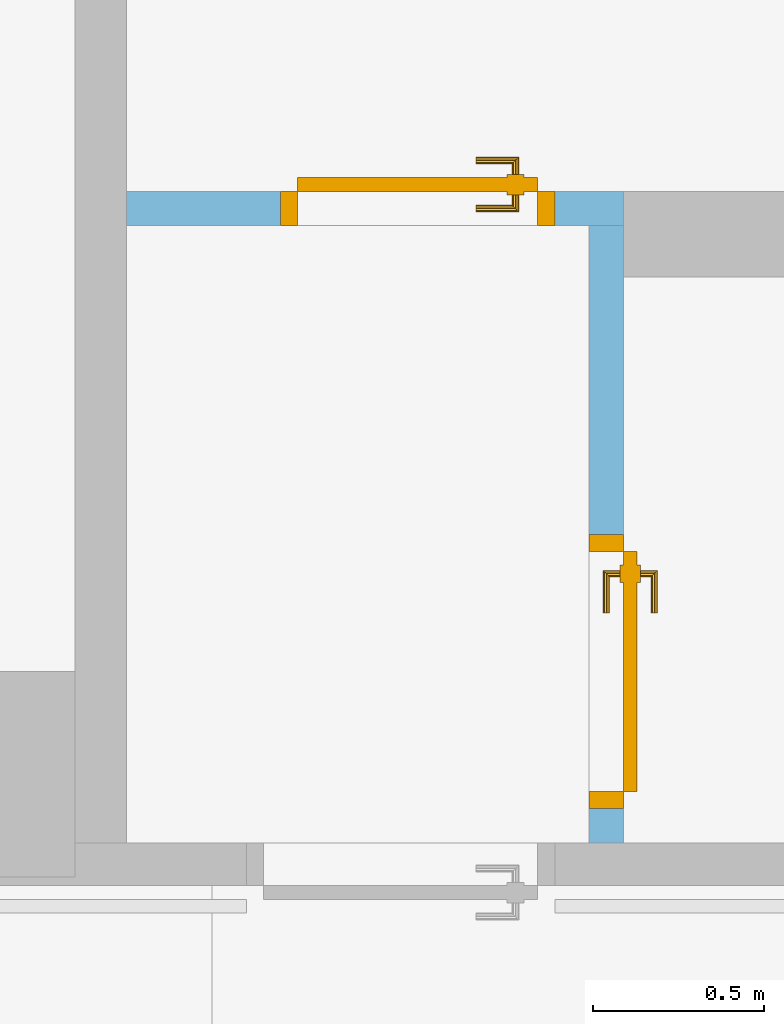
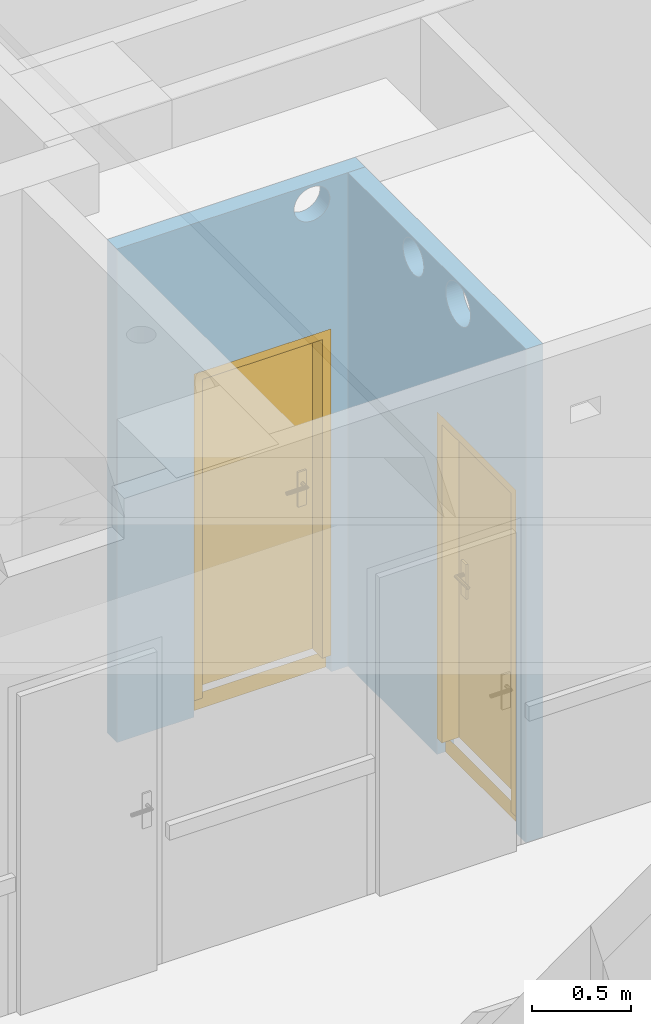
# One storey, part 65 of 84: 2 doors, 5 openings, plus 2 elements that do not belong to this part.
"""IFC4 building model written with IfcOpenShell, lengths in metres."""

import ifcopenshell
import ifcopenshell.guid

model = None  # the IFC model being written
_history = None  # IfcOwnerHistory: only IFC2X3 demands one
_inside = {}  # id of a spatial element -> (the spatial element, [elements in it])
_under = {}  # id of a project, library or spatial element -> (it, [spatial elements below it])
_declared = {}  # id of a project -> (the project, [libraries it declares])
_typed = {}  # id of a type object -> (the type object, [elements of that type])
_made_of = {}  # id of a material, layer set ... -> (it, [elements and type objects made of it])


def new_model(schema):
    """Start an empty IFC model of exactly this schema.

    Asked for "IFC4X3", IfcOpenShell would pick the latest addendum, in which some entities
    have other attributes; the version numbers below select the first issue.
    IFC2X3 requires an IfcOwnerHistory on every rooted entity: one is made here for all.
    """
    global model, _history
    if schema == "IFC4X3":
        model = ifcopenshell.file(schema_version=(4, 3, 0, 0))
    else:
        model = ifcopenshell.file(schema=schema)
    _inside.clear()
    _under.clear()
    _declared.clear()
    _typed.clear()
    _made_of.clear()
    _history = None
    if model.schema == "IFC2X3":
        org = make("IfcOrganization", Name="unknown")
        user = make(
            "IfcPersonAndOrganization",
            ThePerson=make("IfcPerson", FamilyName="unknown"),
            TheOrganization=org,
        )
        app = make(
            "IfcApplication",
            ApplicationDeveloper=org,
            Version="unknown",
            ApplicationFullName="unknown",
            ApplicationIdentifier="unknown",
        )
        _history = make(
            "IfcOwnerHistory",
            OwningUser=user,
            OwningApplication=app,
            ChangeAction="ADDED",
            CreationDate=0,
        )
    return model


def make(cls, **values):
    """One entity of the class cls with the attributes given. An attribute that is None is left unset."""
    return model.create_entity(
        cls, **{name: value for name, value in values.items() if value is not None}
    )


def entity(cls, *values):
    """Any entity or typed value of the class cls, its attributes in the order of the schema. None: left unset."""
    e = model.create_entity(cls)
    for i, value in enumerate(values):
        if value is not None:
            e[i] = value
    return e


def rooted(cls, **values):
    """An entity with a GlobalId (a new one), such as an element, a storey or a relation."""
    return make(cls, GlobalId=ifcopenshell.guid.new(), OwnerHistory=_history, **values)


def si_unit(unit_type, name, prefix=None):
    """IfcSIUnit, for example si_unit("LENGTHUNIT", "METRE", prefix="MILLI")."""
    return make("IfcSIUnit", UnitType=unit_type, Prefix=prefix, Name=name)


def converted_unit(unit_type, name, factor, base, dimensions=None, offset=None):
    """IfcConversionBasedUnit, such as the inch: factor (a typed value) times the base unit."""
    return make(
        "IfcConversionBasedUnit"
        if offset is None
        else "IfcConversionBasedUnitWithOffset",
        ConversionOffset=offset,
        Dimensions=None
        if dimensions is None
        else entity("IfcDimensionalExponents", *dimensions),
        UnitType=unit_type,
        Name=name,
        ConversionFactor=make(
            "IfcMeasureWithUnit", ValueComponent=factor, UnitComponent=base
        ),
    )


def derived_unit(unit_type, elements):
    """IfcDerivedUnit: a product of units, each with its exponent."""
    return make(
        "IfcDerivedUnit",
        Elements=[
            make("IfcDerivedUnitElement", Unit=unit, Exponent=power)
            for unit, power in elements
        ],
        UnitType=unit_type,
    )


def assignment(units):
    """IfcUnitAssignment: the units of a project."""
    return None if units is None else make("IfcUnitAssignment", Units=units)


def point(xyz):
    """IfcCartesianPoint."""
    return None if xyz is None else make("IfcCartesianPoint", Coordinates=xyz)


def direction(xyz):
    """IfcDirection."""
    return None if xyz is None else make("IfcDirection", DirectionRatios=xyz)


def frame(location, z_axis=None, x_axis=None):
    """IfcAxis2Placement3D, a coordinate frame: its origin and axes. An axis left out is left unset."""
    return make(
        "IfcAxis2Placement3D",
        Location=point(location),
        Axis=direction(z_axis),
        RefDirection=direction(x_axis),
    )


def frame_2d(location, x_axis=None):
    """IfcAxis2Placement2D, a coordinate frame in the plane: its origin and x axis."""
    return make(
        "IfcAxis2Placement2D", Location=point(location), RefDirection=direction(x_axis)
    )


def origin():
    """The frame at (0, 0, 0) with its axes left unset."""
    return frame((0.0, 0.0, 0.0))


def origin_with_axes():
    """The frame at (0, 0, 0) with the z axis (0, 0, 1) and the x axis (1, 0, 0) written out."""
    return frame((0.0, 0.0, 0.0), z_axis=(0.0, 0.0, 1.0), x_axis=(1.0, 0.0, 0.0))


def place(relative_to, where):
    """IfcLocalPlacement: puts the frame where relative to a parent placement (None: the world)."""
    return make(
        "IfcLocalPlacement", PlacementRelTo=relative_to, RelativePlacement=where
    )


def context(
    kind, dimensions, precision=None, world=None, true_north=None, identifier=None
):
    """IfcGeometricRepresentationContext, for example the 3D "Model" context."""
    return make(
        "IfcGeometricRepresentationContext",
        ContextIdentifier=identifier,
        ContextType=kind,
        CoordinateSpaceDimension=dimensions,
        Precision=precision,
        WorldCoordinateSystem=world,
        TrueNorth=true_north,
    )


def subcontext(parent, identifier, kind, view, scale=None):
    """IfcGeometricRepresentationSubContext, for example "Body" below "Model"."""
    return make(
        "IfcGeometricRepresentationSubContext",
        ContextIdentifier=identifier,
        ContextType=kind,
        ParentContext=parent,
        TargetScale=scale,
        TargetView=view,
    )


def project(units=None, contexts=None):
    """IfcProject with its units and contexts."""
    return rooted(
        "IfcProject",
        Name="project",
        RepresentationContexts=contexts,
        UnitsInContext=assignment(units),
    )


def spatial(cls, under=None, at=None, **own):
    """A site, building, storey or space (cls), placed at a placement, below another one or the project."""
    s = rooted(cls, ObjectPlacement=at, **own)
    if under is not None:
        _under.setdefault(under.id(), (under, []))[1].append(s)
    return s


def polyline(points):
    """IfcPolyline through the points."""
    return make("IfcPolyline", Points=[point(p) for p in points])


def profile(cls, at=None, kind="AREA", **sizes):
    """A parametric profile (cls). Its sizes go by their IFC names, for example OverallWidth=200.0."""
    return make(cls, ProfileType=kind, Position=at, **sizes)


def rectangle(**sizes):
    """IfcRectangleProfileDef."""
    return profile("IfcRectangleProfileDef", **sizes)


def outline(outer, holes=None, kind="AREA"):
    """IfcArbitraryClosedProfileDef: a profile drawn as a closed curve; with holes, ...WithVoids."""
    if holes is None:
        return make("IfcArbitraryClosedProfileDef", ProfileType=kind, OuterCurve=outer)
    return make(
        "IfcArbitraryProfileDefWithVoids",
        ProfileType=kind,
        OuterCurve=outer,
        InnerCurves=holes,
    )


def extrude(swept, where, along, depth):
    """IfcExtrudedAreaSolid: the profile swept, set in the frame where, extruded along a direction by depth."""
    return make(
        "IfcExtrudedAreaSolid",
        SweptArea=swept,
        Position=where,
        ExtrudedDirection=direction(along),
        Depth=depth,
    )


def faces_of(points, faces, orient=None, outer=None):
    """IfcFace entities. A face is a list of loops; a loop is a list of indices into points, from 0.

    orient and outer hold one flag for each loop. By default every Orientation is true, the
    first loop of a face is its IfcFaceOuterBound and the others are IfcFaceBound.
    """
    made = []
    for i, loops in enumerate(faces):
        bounds = []
        for j, loop in enumerate(loops):
            is_outer = j == 0 if outer is None else outer[i][j]
            bounds.append(
                make(
                    "IfcFaceOuterBound" if is_outer else "IfcFaceBound",
                    Bound=make("IfcPolyLoop", Polygon=[points[k] for k in loop]),
                    Orientation=True if orient is None else orient[i][j],
                )
            )
        made.append(make("IfcFace", Bounds=bounds))
    return made


def closed_shell(faces, orient=None, outer=None):
    """The faces of one IfcClosedShell. faceted_brep and surface_model build it on their shared points."""
    return ("IfcClosedShell", faces, orient, outer)


def open_shell(faces, orient=None, outer=None):
    """The faces of one IfcOpenShell. surface_model builds it on its shared points."""
    return ("IfcOpenShell", faces, orient, outer)


def surface_model(cls, points, shells):
    """IfcFaceBasedSurfaceModel or IfcShellBasedSurfaceModel (cls): surfaces that need not close."""
    shared = [point(p) for p in points]
    made = [make(c, CfsFaces=faces_of(shared, fs, o, b)) for c, fs, o, b in shells]
    if cls == "IfcFaceBasedSurfaceModel":
        return make(cls, FbsmFaces=made)
    return make(cls, SbsmBoundary=made)


def shape(context_of_items, identifier, shape_type, items):
    """IfcShapeRepresentation: the items that make up one representation, for example the "Body"."""
    return make(
        "IfcShapeRepresentation",
        ContextOfItems=context_of_items,
        RepresentationIdentifier=identifier,
        RepresentationType=shape_type,
        Items=items,
    )


def source(mapping_origin, context_of_items, identifier, shape_type, items):
    """IfcRepresentationMap: a shape defined once, which mapped items show again and again."""
    return make(
        "IfcRepresentationMap",
        MappingOrigin=mapping_origin,
        MappedRepresentation=shape(context_of_items, identifier, shape_type, items),
    )


def transform(
    local_origin,
    x_axis=None,
    y_axis=None,
    z_axis=None,
    scale=None,
    scale2=None,
    scale3=None,
    uniform=True,
):
    """IfcCartesianTransformationOperator3D, or its non-uniform kind. x_axis, y_axis, z_axis: its Axis1, 2, 3."""
    if uniform:
        return make(
            "IfcCartesianTransformationOperator3D",
            Axis1=direction(x_axis),
            Axis2=direction(y_axis),
            LocalOrigin=point(local_origin),
            Scale=scale,
            Axis3=direction(z_axis),
        )
    return make(
        "IfcCartesianTransformationOperator3DnonUniform",
        Axis1=direction(x_axis),
        Axis2=direction(y_axis),
        LocalOrigin=point(local_origin),
        Scale=scale,
        Axis3=direction(z_axis),
        Scale2=scale2,
        Scale3=scale3,
    )


def mapped(mapping_source, mapping_target):
    """IfcMappedItem: shows the shape of a source again, moved by a transform."""
    return make(
        "IfcMappedItem", MappingSource=mapping_source, MappingTarget=mapping_target
    )


def material(Name=None, Category=None):
    """IfcMaterial."""
    return make("IfcMaterial", Name=Name, Category=Category)


def layer(
    of_material, thickness, ventilated=None, Name=None, Category=None, Priority=None
):
    """IfcMaterialLayer: one layer of a wall or slab, of a material (None: an air gap)."""
    return make(
        "IfcMaterialLayer",
        Material=of_material,
        LayerThickness=thickness,
        IsVentilated=ventilated,
        Name=Name,
        Category=Category,
        Priority=Priority,
    )


def layer_set(layers, Name=None):
    """IfcMaterialLayerSet."""
    return make("IfcMaterialLayerSet", MaterialLayers=layers, LayerSetName=Name)


def layer_usage(for_layer_set, set_direction, sense, offset, extent=None):
    """IfcMaterialLayerSetUsage: how a layer set lies in its element."""
    return make(
        "IfcMaterialLayerSetUsage",
        ForLayerSet=for_layer_set,
        LayerSetDirection=set_direction,
        DirectionSense=sense,
        OffsetFromReferenceLine=offset,
        ReferenceExtent=extent,
    )


def made_of(thing, what):
    """Note that an element or type object is made of a material, layer set ...; save() writes the relation."""
    if what is not None:
        _made_of.setdefault(what.id(), (what, []))[1].append(thing)
    return thing


def type_object(cls, material=None, **own):
    """A type object (cls), such as IfcWallType, which elements share."""
    return made_of(rooted(cls, **own), material)


def element(
    cls,
    number,
    at=None,
    inside=None,
    cuts=None,
    type_object=None,
    material=None,
    context=None,
    identifier="Body",
    shape_type=None,
    held_by="IfcProductDefinitionShape",
    body=None,
    shapes=None,
    **own,
):
    """One element of the class cls, such as IfcWall. Its Tag is "e" and its number.

    at: its placement. inside: the storey or other place that contains it. cuts: it is an
    opening in that element (IfcRelVoidsElement). A single representation is given by context,
    identifier, shape_type and body (its items); several are given by shapes. held_by: the class
    of the entity that holds the representations. save() writes the other relations.
    """
    e = rooted(cls, Tag="e%d" % number, ObjectPlacement=at, **own)
    if body is not None:
        shapes = [shape(context, identifier, shape_type, body)]
    if shapes is not None:
        e.Representation = make(held_by, Representations=shapes)
    if inside is not None:
        _inside.setdefault(inside.id(), (inside, []))[1].append(e)
    if cuts is not None:
        rooted(
            "IfcRelVoidsElement", RelatingBuildingElement=cuts, RelatedOpeningElement=e
        )
    if type_object is not None:
        _typed.setdefault(type_object.id(), (type_object, []))[1].append(e)
    return made_of(e, material)


def fill(opening, filler):
    """IfcRelFillsElement: the door or window that sits in an opening."""
    return rooted(
        "IfcRelFillsElement",
        RelatingOpeningElement=opening,
        RelatedBuildingElement=filler,
    )


def aggregate(whole, parts):
    """IfcRelAggregates: a whole, such as a stair, and the parts it consists of."""
    return rooted("IfcRelAggregates", RelatingObject=whole, RelatedObjects=parts)


def save(model, path):
    """Write the relations noted so far, then the file.

    IfcRelAggregates (storeys below a building ...), IfcRelContainedInSpatialStructure (elements
    in a storey), IfcRelDefinesByType, IfcRelAssociatesMaterial and IfcRelDeclares: one each for
    every whole, place, type object, material and project.
    """
    for whole, parts in _under.values():
        aggregate(whole, parts)
    for where, things in _inside.values():
        rooted(
            "IfcRelContainedInSpatialStructure",
            RelatedElements=things,
            RelatingStructure=where,
        )
    for kind, things in _typed.values():
        rooted("IfcRelDefinesByType", RelatedObjects=things, RelatingType=kind)
    for what, things in _made_of.values():
        rooted("IfcRelAssociatesMaterial", RelatedObjects=things, RelatingMaterial=what)
    for by, libraries in _declared.values():
        rooted("IfcRelDeclares", RelatingContext=by, RelatedDefinitions=libraries)
    model.write(path)


model = new_model("IFC4")

# Units and contexts
model_context = context("Model", 3, precision=1e-05, world=origin())
body_context = subcontext(model_context, "Body", "Model", "MODEL_VIEW")
ifc_project = project(units=[si_unit("LENGTHUNIT", "METRE"), si_unit("AREAUNIT", "SQUARE_METRE"), si_unit("VOLUMEUNIT", "CUBIC_METRE"), si_unit("MASSUNIT", "GRAM", prefix="KILO"), converted_unit("PLANEANGLEUNIT", "DEGREE", entity("IfcPlaneAngleMeasure", 0.0174532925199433), si_unit("PLANEANGLEUNIT", "RADIAN"), dimensions=[0, 0, 0, 0, 0, 0, 0]), derived_unit("THERMALTRANSMITTANCEUNIT", [(si_unit("POWERUNIT", "WATT"), 1), (si_unit("THERMODYNAMICTEMPERATUREUNIT", "KELVIN"), -1), (si_unit("LENGTHUNIT", "METRE"), -2)]), derived_unit("VOLUMETRICFLOWRATEUNIT", [(si_unit("LENGTHUNIT", "METRE"), 3), (converted_unit("TIMEUNIT", "hour", entity("IfcTimeMeasure", 3600.0), si_unit("TIMEUNIT", "SECOND"), dimensions=[0, 0, 1, 0, 0, 0, 0]), -1), (si_unit("LENGTHUNIT", "METRE"), -1)])], contexts=[model_context])

# Site, building, storey
site_placement = place(None, origin())
site = spatial("IfcSite", under=ifc_project, at=site_placement, Name="3. ASŘ", CompositionType="ELEMENT")
building_placement = place(site_placement, origin())
building = spatial("IfcBuilding", under=site, at=building_placement, Name="Pavilon C", CompositionType="ELEMENT")
storey_placement = place(building_placement, frame((0.0, 0.0, -3.3)))
storey = spatial("IfcBuildingStorey", under=building, at=storey_placement, Name="Půdorys 1.PP", CompositionType="ELEMENT", Elevation=-3.3)

# Wall, openings, door
ifc_material_1 = material(Name="SDK - 1 KCE + DVOJITÉ OPLÁŠTĚNÍ")
ifc_layer_1 = layer(ifc_material_1, 0.1)
ifc_layer_set_1 = layer_set([ifc_layer_1])
ifc_layer_usage_1 = layer_usage(ifc_layer_set_1, "AXIS2", "POSITIVE", 0.0)
wall_1_placement = place(storey_placement, frame((25.9, 11.9, -0.1), z_axis=(0.0, 0.0, 1.0), x_axis=(-1.0, 0.0, 0.0)))
wall_1 = element("IfcWall", 1, at=wall_1_placement, inside=storey, material=ifc_layer_usage_1, Name="SDK - 1 KCE + DVOJITÉ OPLÁŠTĚNÍ", context=body_context, shape_type="SweptSolid", body=[
    extrude(rectangle(XDim=1.45, YDim=0.1, at=frame_2d((0.725, 0.05), x_axis=(1.0, 0.0))), origin_with_axes(), (0.0, 0.0, 1.0), 3.05),
])
opening_1_placement = place(wall_1_placement, frame((1.0, 0.1, 0.0), z_axis=(0.0, -1.0, 0.0), x_axis=(0.0, 0.0, 1.0)))
opening_1 = element("IfcOpeningElement", 2, at=opening_1_placement, cuts=wall_1, Name="Dveřní otvor", ObjectType="Opening", context=body_context, shape_type="SweptSolid", body=[
    extrude(outline(polyline([(0.0, 0.8), (2.12, 0.8), (2.12, 0.0), (0.0, 0.0), (0.0, 0.8)])), origin_with_axes(), (0.0, 0.0, 1.0), 0.1),
])
opening_2_placement = place(wall_1_placement, frame((0.205867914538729, 0.0, 2.825), z_axis=(0.0, 1.0, 0.0), x_axis=(0.0, 0.0, 1.0)))
element("IfcOpeningElement", 3, at=opening_2_placement, cuts=wall_1, Name="VZT", ObjectType="Opening", context=body_context, shape_type="SweptSolid", body=[
    extrude(outline(polyline([(0.105, 0.21), (0.115975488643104, 0.209424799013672), (0.126830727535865, 0.207705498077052), (0.137446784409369, 0.204860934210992), (0.147707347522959, 0.200922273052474), (0.1575, 0.195932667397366), (0.16671745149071, 0.189946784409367), (0.17525871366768, 0.183030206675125), (0.183030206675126, 0.175258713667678), (0.189946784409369, 0.166717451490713), (0.195932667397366, 0.1575), (0.200922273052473, 0.147707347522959), (0.204860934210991, 0.137446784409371), (0.20770549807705, 0.126830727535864), (0.209424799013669, 0.115975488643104), (0.21, 0.105), (0.209424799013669, 0.0940245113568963), (0.20770549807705, 0.0831692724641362), (0.204860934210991, 0.0725532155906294), (0.200922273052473, 0.062292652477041), (0.195932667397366, 0.0524999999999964), (0.18994678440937, 0.0432825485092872), (0.183030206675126, 0.0347412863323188), (0.17525871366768, 0.0269697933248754), (0.16671745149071, 0.0200532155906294), (0.1575, 0.0140673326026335), (0.147707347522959, 0.00907772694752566), (0.13744678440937, 0.00513906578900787), (0.126830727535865, 0.0022945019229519), (0.115975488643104, 0.000575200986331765), (0.105, 0.0), (0.0940245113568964, 0.000575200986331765), (0.0831692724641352, 0.0022945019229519), (0.0725532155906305, 0.00513906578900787), (0.062292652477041, 0.00907772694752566), (0.0525, 0.0140673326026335), (0.0432825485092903, 0.0200532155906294), (0.0347412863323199, 0.0269697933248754), (0.0269697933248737, 0.0347412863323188), (0.0200532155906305, 0.0432825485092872), (0.014067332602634, 0.0524999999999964), (0.00907772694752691, 0.062292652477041), (0.0051390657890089, 0.0725532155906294), (0.00229450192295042, 0.0831692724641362), (0.000575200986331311, 0.0940245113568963), (0.0, 0.105), (0.000575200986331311, 0.115975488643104), (0.00229450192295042, 0.126830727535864), (0.0051390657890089, 0.137446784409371), (0.00907772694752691, 0.147707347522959), (0.014067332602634, 0.1575), (0.0200532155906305, 0.166717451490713), (0.0269697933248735, 0.175258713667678), (0.0347412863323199, 0.183030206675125), (0.0432825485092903, 0.189946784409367), (0.0525, 0.195932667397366), (0.062292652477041, 0.200922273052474), (0.0725532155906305, 0.204860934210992), (0.0831692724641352, 0.207705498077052), (0.0940245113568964, 0.209424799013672), (0.105, 0.21)])), origin_with_axes(), (0.0, 0.0, 1.0), 0.1),
])
door_type_1 = type_object("IfcDoorType", Name="I.D014", OperationType="NOTDEFINED", ParameterTakesPrecedence=False, PredefinedType="DOOR")
shared_shape_1 = source(origin_with_axes(), body_context, "Body", "SurfaceModel", [
    surface_model("IfcShellBasedSurfaceModel", [(0.0, 0.05, 0.0), (0.8, 0.05, 0.0), (0.8, 0.05, 0.1), (0.0, 0.05, 0.1)], [open_shell([[[0, 1, 2, 3]]], orient=[[False]])]),
    surface_model("IfcShellBasedSurfaceModel", [(0.0, 0.1, 2.12), (0.0, 0.1, 0.101), (0.05, 0.1, 0.101), (0.05, 0.1, 2.12), (0.0, 0.0, 0.101), (0.0, 2.41584530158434e-16, 2.12), (0.05, 2.41584530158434e-16, 2.12), (0.05, 0.0, 0.101)], [closed_shell([[[0, 1, 2, 3]], [[4, 5, 6, 7]], [[1, 0, 5, 4]], [[2, 1, 4, 7]], [[3, 2, 7, 6]], [[0, 3, 6, 5]]], orient=[[False], [False], [False], [False], [False], [False]])]),
    surface_model("IfcShellBasedSurfaceModel", [(0.75, 0.1, 2.12), (0.75, 0.1, 0.101), (0.8, 0.1, 0.101), (0.8, 0.1, 2.12), (0.75, 0.0, 0.101), (0.75, 2.41584530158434e-16, 2.12), (0.8, 2.41584530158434e-16, 2.12), (0.8, 0.0, 0.101)], [closed_shell([[[0, 1, 2, 3]], [[4, 5, 6, 7]], [[1, 0, 5, 4]], [[2, 1, 4, 7]], [[3, 2, 7, 6]], [[0, 3, 6, 5]]], orient=[[False], [False], [False], [False], [False], [False]])]),
    surface_model("IfcShellBasedSurfaceModel", [(0.05, 0.1, 2.12), (0.05, 0.1, 2.07), (0.75, 0.1, 2.07), (0.75, 0.1, 2.12), (0.05, 2.41584530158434e-16, 2.07), (0.05, 2.41584530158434e-16, 2.12), (0.75, 2.41584530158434e-16, 2.12), (0.75, 2.41584530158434e-16, 2.07)], [closed_shell([[[0, 1, 2, 3]], [[4, 5, 6, 7]], [[1, 0, 5, 4]], [[2, 1, 4, 7]], [[3, 2, 7, 6]], [[0, 3, 6, 5]]], orient=[[False], [False], [False], [False], [False], [False]])]),
    surface_model("IfcShellBasedSurfaceModel", [(0.05, 0.14, 2.07), (0.05, 0.14, 0.101), (0.75, 0.14, 0.101), (0.75, 0.14, 2.07), (0.05, 0.1, 0.101), (0.05, 0.1, 2.07), (0.75, 0.1, 2.07), (0.75, 0.1, 0.101)], [closed_shell([[[0, 1, 2, 3]], [[4, 5, 6, 7]], [[1, 0, 5, 4]], [[2, 1, 4, 7]], [[3, 2, 7, 6]], [[0, 3, 6, 5]]], orient=[[False], [False], [False], [False], [False], [False]])]),
    surface_model("IfcShellBasedSurfaceModel", [(0.09, 0.1, 1.226), (0.09, 0.1, 1.011), (0.14, 0.1, 1.011), (0.14, 0.1, 1.226), (0.09, 0.0900000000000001, 1.011), (0.09, 0.0900000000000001, 1.226), (0.14, 0.0900000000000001, 1.226), (0.14, 0.0900000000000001, 1.011)], [closed_shell([[[0, 1, 2, 3]], [[4, 5, 6, 7]], [[1, 0, 5, 4]], [[2, 1, 4, 7]], [[3, 2, 7, 6]], [[0, 3, 6, 5]]], orient=[[False], [False], [False], [False], [False], [False]])]),
    surface_model("IfcShellBasedSurfaceModel", [(0.115, 0.0900000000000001, 1.161), (0.11, 0.0900000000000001, 1.15966025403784), (0.106339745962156, 0.0900000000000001, 1.156), (0.105, 0.0900000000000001, 1.151), (0.106339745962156, 0.0900000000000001, 1.146), (0.11, 0.0900000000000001, 1.14233974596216), (0.115, 0.0900000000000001, 1.141), (0.12, 0.0900000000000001, 1.14233974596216), (0.123660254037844, 0.0900000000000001, 1.146), (0.125, 0.0900000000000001, 1.151), (0.123660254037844, 0.0900000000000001, 1.156), (0.12, 0.0900000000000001, 1.15966025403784), (0.115, 0.0500000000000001, 1.161), (0.11, 0.0450000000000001, 1.15966025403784), (0.106339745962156, 0.0413397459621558, 1.156), (0.105, 0.0400000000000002, 1.151), (0.106339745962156, 0.0413397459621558, 1.146), (0.11, 0.0450000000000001, 1.14233974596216), (0.115, 0.0500000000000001, 1.141), (0.12, 0.0550000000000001, 1.14233974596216), (0.123660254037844, 0.0586602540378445, 1.146), (0.125, 0.0600000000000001, 1.151), (0.123660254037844, 0.0586602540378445, 1.156), (0.12, 0.0550000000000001, 1.15966025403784), (0.23, 0.0500000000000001, 1.161), (0.23, 0.0450000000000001, 1.15966025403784), (0.23, 0.0413397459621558, 1.156), (0.23, 0.0400000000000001, 1.151), (0.23, 0.0413397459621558, 1.146), (0.23, 0.0450000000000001, 1.14233974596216), (0.23, 0.0500000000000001, 1.141), (0.23, 0.0550000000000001, 1.14233974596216), (0.23, 0.0586602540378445, 1.146), (0.23, 0.0600000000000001, 1.151), (0.23, 0.0586602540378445, 1.156), (0.23, 0.0550000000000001, 1.15966025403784)], [open_shell([[[0, 1, 2, 3, 4, 5, 6, 7, 8, 9, 10, 11]], [[0, 12, 13, 1]], [[1, 13, 14, 2]], [[2, 14, 15, 3]], [[3, 15, 16, 4]], [[4, 16, 17, 5]], [[5, 17, 18, 6]], [[6, 18, 19, 7]], [[7, 19, 20, 8]], [[8, 20, 21, 9]], [[9, 21, 22, 10]], [[10, 22, 23, 11]], [[11, 23, 12, 0]], [[12, 24, 25, 13]], [[13, 25, 26, 14]], [[14, 26, 27, 15]], [[15, 27, 28, 16]], [[16, 28, 29, 17]], [[17, 29, 30, 18]], [[18, 30, 31, 19]], [[19, 31, 32, 20]], [[20, 32, 33, 21]], [[21, 33, 34, 22]], [[22, 34, 35, 23]], [[23, 35, 24, 12]]], orient=[[False], [False], [False], [False], [False], [False], [False], [False], [False], [False], [False], [False], [False], [False], [False], [False], [False], [False], [False], [False], [False], [False], [False], [False], [False]])]),
    surface_model("IfcShellBasedSurfaceModel", [(0.09, 0.14, 1.226), (0.14, 0.14, 1.226), (0.14, 0.14, 1.011), (0.09, 0.14, 1.011), (0.09, 0.15, 1.011), (0.14, 0.15, 1.011), (0.14, 0.15, 1.226), (0.09, 0.15, 1.226)], [closed_shell([[[0, 1, 2, 3]], [[4, 5, 6, 7]], [[3, 4, 7, 0]], [[2, 5, 4, 3]], [[1, 6, 5, 2]], [[0, 7, 6, 1]]], orient=[[False], [False], [False], [False], [False], [False]])]),
    surface_model("IfcShellBasedSurfaceModel", [(0.115, 0.15, 1.161), (0.12, 0.15, 1.15966025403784), (0.123660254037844, 0.15, 1.156), (0.125, 0.15, 1.151), (0.123660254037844, 0.15, 1.146), (0.12, 0.15, 1.14233974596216), (0.115, 0.15, 1.141), (0.11, 0.15, 1.14233974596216), (0.106339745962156, 0.15, 1.146), (0.105, 0.15, 1.151), (0.106339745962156, 0.15, 1.156), (0.11, 0.15, 1.15966025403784), (0.11, 0.195, 1.15966025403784), (0.115, 0.19, 1.161), (0.106339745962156, 0.198660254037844, 1.156), (0.105, 0.2, 1.151), (0.106339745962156, 0.198660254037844, 1.146), (0.11, 0.195, 1.14233974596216), (0.115, 0.19, 1.141), (0.12, 0.185, 1.14233974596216), (0.123660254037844, 0.181339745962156, 1.146), (0.125, 0.18, 1.151), (0.123660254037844, 0.181339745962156, 1.156), (0.12, 0.185, 1.15966025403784), (0.23, 0.195, 1.15966025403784), (0.23, 0.19, 1.161), (0.23, 0.198660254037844, 1.156), (0.23, 0.2, 1.151), (0.23, 0.198660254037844, 1.146), (0.23, 0.195, 1.14233974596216), (0.23, 0.19, 1.141), (0.23, 0.185, 1.14233974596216), (0.23, 0.181339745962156, 1.146), (0.23, 0.18, 1.151), (0.23, 0.181339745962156, 1.156), (0.23, 0.185, 1.15966025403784)], [open_shell([[[0, 1, 2, 3, 4, 5, 6, 7, 8, 9, 10, 11]], [[0, 11, 12, 13]], [[11, 10, 14, 12]], [[10, 9, 15, 14]], [[9, 8, 16, 15]], [[8, 7, 17, 16]], [[7, 6, 18, 17]], [[6, 5, 19, 18]], [[5, 4, 20, 19]], [[4, 3, 21, 20]], [[3, 2, 22, 21]], [[2, 1, 23, 22]], [[1, 0, 13, 23]], [[13, 12, 24, 25]], [[12, 14, 26, 24]], [[14, 15, 27, 26]], [[15, 16, 28, 27]], [[16, 17, 29, 28]], [[17, 18, 30, 29]], [[18, 19, 31, 30]], [[19, 20, 32, 31]], [[20, 21, 33, 32]], [[21, 22, 34, 33]], [[22, 23, 35, 34]], [[23, 13, 25, 35]]], orient=[[False], [False], [False], [False], [False], [False], [False], [False], [False], [False], [False], [False], [False], [False], [False], [False], [False], [False], [False], [False], [False], [False], [False], [False], [False]])]),
])
door_1_placement = place(opening_1_placement, frame((0.0, 0.8, 0.0), z_axis=(1.0, 0.0, 0.0), x_axis=(0.0, -1.0, 0.0)))
door_1 = element("IfcDoor", 4, at=door_1_placement, inside=storey, type_object=door_type_1, Name="I.D014", OverallHeight=2.12, OverallWidth=0.8, context=body_context, shape_type="MappedRepresentation", body=[
    mapped(shared_shape_1, transform((0.0, 0.0, 0.0), x_axis=(1.0, 0.0, 0.0), y_axis=(0.0, -1.0, 0.0), z_axis=(0.0, 0.0, 1.0), scale=1.0)),
])
fill(opening_1, door_1)

ifc_material_2 = material(Name="SDK - 1 KCE + DVOJITÉ OPLÁŠTĚNÍ")
ifc_layer_2 = layer(ifc_material_2, 0.1)
ifc_layer_set_2 = layer_set([ifc_layer_2])
ifc_layer_usage_2 = layer_usage(ifc_layer_set_2, "AXIS2", "POSITIVE", 0.0)
wall_2_placement = place(storey_placement, frame((25.8, 11.8, -0.1), z_axis=(0.0, 0.0, 1.0), x_axis=(0.0, -1.0, 0.0)))
wall_2 = element("IfcWall", 5, at=wall_2_placement, inside=storey, material=ifc_layer_usage_2, Name="SDK - 1 KCE + DVOJITÉ OPLÁŠTĚNÍ", context=body_context, shape_type="SweptSolid", body=[
    extrude(rectangle(XDim=1.8, YDim=0.1, at=frame_2d((0.9, 0.05), x_axis=(1.0, 0.0))), origin_with_axes(), (0.0, 0.0, 1.0), 3.05),
])
opening_3_placement = place(wall_2_placement, frame((0.899999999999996, 0.0, 0.0), z_axis=(0.0, 1.0, 0.0), x_axis=(0.0, 0.0, 1.0)))
opening_3 = element("IfcOpeningElement", 6, at=opening_3_placement, cuts=wall_2, Name="Dveřní otvor", ObjectType="Opening", context=body_context, shape_type="SweptSolid", body=[
    extrude(outline(polyline([(0.0, 0.8), (2.12, 0.8), (2.12, 0.0), (0.0, 0.0), (0.0, 0.8)])), origin_with_axes(), (0.0, 0.0, 1.0), 0.1),
])
opening_4_placement = place(wall_2_placement, frame((0.557363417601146, 0.0, 2.825), z_axis=(0.0, 1.0, 0.0), x_axis=(0.0, 0.0, 1.0)))
element("IfcOpeningElement", 7, at=opening_4_placement, cuts=wall_2, Name="VZT", ObjectType="Opening", context=body_context, shape_type="SweptSolid", body=[
    extrude(outline(polyline([(0.10499997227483, 0.0), (0.0940244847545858, 0.000575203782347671), (0.0831692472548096, 0.00229450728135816), (0.072553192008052, 0.00513907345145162), (0.0622926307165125, 0.00907773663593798), (0.0524999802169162, 0.0140673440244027), (0.043282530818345, 0.0200532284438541), (0.0347412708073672, 0.0269698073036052), (0.0269697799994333, 0.0347413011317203), (0.0200532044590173, 0.0432825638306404), (0.0140673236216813, 0.0525000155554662), (0.00907772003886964, 0.0622926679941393), (0.00513906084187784, 0.0725532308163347), (0.00229449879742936, 0.0831692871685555), (0.000575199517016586, 0.0940245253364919), (0.0, 0.105000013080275), (0.000575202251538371, 0.115975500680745), (0.00229450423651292, 0.12683073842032), (0.00513906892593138, 0.137446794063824), (0.00907773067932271, 0.147707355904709), (0.0140673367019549, 0.157500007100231), (0.0200532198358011, 0.166717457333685), (0.0269697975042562, 0.175258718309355), (0.0347412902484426, 0.183030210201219), (0.0432825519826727, 0.189946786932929), (0.0525000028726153, 0.195932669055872), (0.0622926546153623, 0.200922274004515), (0.072553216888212, 0.204860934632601), (0.0831692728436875, 0.207705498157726), (0.0940245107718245, 0.209424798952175), (0.104999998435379, 0.21), (0.115975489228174, 0.209424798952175), (0.126830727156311, 0.207705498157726), (0.137446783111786, 0.204860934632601), (0.147707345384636, 0.200922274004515), (0.157499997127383, 0.195932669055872), (0.166717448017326, 0.189946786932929), (0.175258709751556, 0.183030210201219), (0.183030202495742, 0.175258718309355), (0.189946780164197, 0.166717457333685), (0.195932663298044, 0.157500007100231), (0.200922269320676, 0.147707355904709), (0.204860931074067, 0.137446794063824), (0.207705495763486, 0.12683073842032), (0.20942479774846, 0.115975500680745), (0.209999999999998, 0.105000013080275), (0.209424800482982, 0.0940245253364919), (0.207705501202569, 0.0831692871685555), (0.204860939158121, 0.0725532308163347), (0.200922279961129, 0.0622926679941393), (0.195932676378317, 0.0525000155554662), (0.189946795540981, 0.0432825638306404), (0.183030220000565, 0.0347413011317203), (0.175258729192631, 0.0269698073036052), (0.166717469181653, 0.0200532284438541), (0.157500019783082, 0.0140673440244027), (0.147707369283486, 0.00907773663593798), (0.137446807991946, 0.00513907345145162), (0.126830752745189, 0.00229450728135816), (0.115975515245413, 0.000575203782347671), (0.10499997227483, 0.0)])), origin_with_axes(), (0.0, 0.0, 1.0), 0.1),
])
opening_5_placement = place(wall_2_placement, frame((1.23986071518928, 0.1, 2.79), z_axis=(0.0, -1.0, 0.0), x_axis=(0.0, 0.0, 1.0)))
element("IfcOpeningElement", 8, at=opening_5_placement, cuts=wall_2, Name="VZT", ObjectType="Opening", context=body_context, shape_type="SweptSolid", body=[
    extrude(outline(polyline([(0.124999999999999, 0.0), (0.111933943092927, 0.000684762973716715), (0.0990110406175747, 0.00273154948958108), (0.0863728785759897, 0.00611793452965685), (0.0741579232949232, 0.0108068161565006), (0.0625000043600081, 0.0167468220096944), (0.0515268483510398, 0.023872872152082), (0.0413586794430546, 0.0321068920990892), (0.0321069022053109, 0.041358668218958), (0.0238728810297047, 0.0515268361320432), (0.0167468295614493, 0.0624999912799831), (0.010806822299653, 0.0741579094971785), (0.00611793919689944, 0.0863728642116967), (0.00273155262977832, 0.0990110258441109), (0.000684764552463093, 0.111933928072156), (0.0, 0.124999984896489), (0.000684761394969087, 0.138066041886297), (0.00273154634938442, 0.15098894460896), (0.00611792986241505, 0.163627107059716), (0.0108068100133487, 0.175842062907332), (0.0167468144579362, 0.187499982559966), (0.0238728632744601, 0.198473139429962), (0.0321068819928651, 0.208641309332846), (0.0413586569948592, 0.217893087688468), (0.051526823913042, 0.226127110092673), (0.0624999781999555, 0.233253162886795), (0.074157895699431, 0.239193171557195), (0.0863728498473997, 0.243882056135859), (0.0990110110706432, 0.247268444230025), (0.111933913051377, 0.249315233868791), (0.124999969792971, 0.25), (0.138066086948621, 0.249315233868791), (0.150988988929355, 0.247268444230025), (0.163627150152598, 0.243882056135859), (0.175842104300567, 0.239193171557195), (0.187500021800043, 0.233253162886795), (0.198473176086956, 0.226127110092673), (0.208641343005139, 0.217893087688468), (0.217893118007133, 0.208641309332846), (0.226127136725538, 0.198473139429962), (0.233253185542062, 0.187499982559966), (0.23919318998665, 0.175842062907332), (0.243882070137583, 0.163627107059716), (0.247268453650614, 0.15098894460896), (0.249315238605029, 0.138066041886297), (0.249999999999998, 0.124999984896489), (0.249315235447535, 0.111933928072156), (0.24726844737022, 0.0990110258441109), (0.243882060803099, 0.0863728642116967), (0.239193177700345, 0.0741579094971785), (0.233253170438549, 0.0624999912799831), (0.226127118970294, 0.0515268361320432), (0.217893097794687, 0.041358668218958), (0.208641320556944, 0.0321068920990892), (0.198473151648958, 0.023872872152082), (0.18749999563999, 0.0167468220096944), (0.175842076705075, 0.0108068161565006), (0.163627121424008, 0.00611793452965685), (0.150988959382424, 0.00273154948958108), (0.138066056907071, 0.000684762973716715), (0.124999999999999, 0.0)])), origin_with_axes(), (0.0, 0.0, 1.0), 0.1),
])
door_type_2 = type_object("IfcDoorType", Name="I.D015", OperationType="NOTDEFINED", ParameterTakesPrecedence=False, PredefinedType="DOOR")
shared_shape_2 = source(origin_with_axes(), body_context, "Body", "SurfaceModel", [
    surface_model("IfcShellBasedSurfaceModel", [(0.0, 0.05, 0.0), (0.8, 0.05, 0.0), (0.8, 0.05, 0.1), (0.0, 0.05, 0.1)], [open_shell([[[0, 1, 2, 3]]], orient=[[False]])]),
    surface_model("IfcShellBasedSurfaceModel", [(0.0, 0.1, 2.12), (0.0, 0.1, 0.101), (0.05, 0.1, 0.101), (0.05, 0.1, 2.12), (0.0, 0.0, 0.101), (0.0, 2.41584530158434e-16, 2.12), (0.05, 2.41584530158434e-16, 2.12), (0.05, 0.0, 0.101)], [closed_shell([[[0, 1, 2, 3]], [[4, 5, 6, 7]], [[1, 0, 5, 4]], [[2, 1, 4, 7]], [[3, 2, 7, 6]], [[0, 3, 6, 5]]], orient=[[False], [False], [False], [False], [False], [False]])]),
    surface_model("IfcShellBasedSurfaceModel", [(0.75, 0.1, 2.12), (0.75, 0.1, 0.101), (0.8, 0.1, 0.101), (0.8, 0.1, 2.12), (0.75, 0.0, 0.101), (0.75, 2.41584530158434e-16, 2.12), (0.8, 2.41584530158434e-16, 2.12), (0.8, 0.0, 0.101)], [closed_shell([[[0, 1, 2, 3]], [[4, 5, 6, 7]], [[1, 0, 5, 4]], [[2, 1, 4, 7]], [[3, 2, 7, 6]], [[0, 3, 6, 5]]], orient=[[False], [False], [False], [False], [False], [False]])]),
    surface_model("IfcShellBasedSurfaceModel", [(0.05, 0.1, 2.12), (0.05, 0.1, 2.07), (0.75, 0.1, 2.07), (0.75, 0.1, 2.12), (0.05, 2.41584530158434e-16, 2.07), (0.05, 2.41584530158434e-16, 2.12), (0.75, 2.41584530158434e-16, 2.12), (0.75, 2.41584530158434e-16, 2.07)], [closed_shell([[[0, 1, 2, 3]], [[4, 5, 6, 7]], [[1, 0, 5, 4]], [[2, 1, 4, 7]], [[3, 2, 7, 6]], [[0, 3, 6, 5]]], orient=[[False], [False], [False], [False], [False], [False]])]),
    surface_model("IfcShellBasedSurfaceModel", [(0.05, 0.14, 2.07), (0.05, 0.14, 0.101), (0.75, 0.14, 0.101), (0.75, 0.14, 2.07), (0.05, 0.1, 0.101), (0.05, 0.1, 2.07), (0.75, 0.1, 2.07), (0.75, 0.1, 0.101)], [closed_shell([[[0, 1, 2, 3]], [[4, 5, 6, 7]], [[1, 0, 5, 4]], [[2, 1, 4, 7]], [[3, 2, 7, 6]], [[0, 3, 6, 5]]], orient=[[False], [False], [False], [False], [False], [False]])]),
    surface_model("IfcShellBasedSurfaceModel", [(0.09, 0.1, 1.226), (0.09, 0.1, 1.011), (0.14, 0.1, 1.011), (0.14, 0.1, 1.226), (0.09, 0.0900000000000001, 1.011), (0.09, 0.0900000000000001, 1.226), (0.14, 0.0900000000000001, 1.226), (0.14, 0.0900000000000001, 1.011)], [closed_shell([[[0, 1, 2, 3]], [[4, 5, 6, 7]], [[1, 0, 5, 4]], [[2, 1, 4, 7]], [[3, 2, 7, 6]], [[0, 3, 6, 5]]], orient=[[False], [False], [False], [False], [False], [False]])]),
    surface_model("IfcShellBasedSurfaceModel", [(0.115, 0.0900000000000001, 1.161), (0.11, 0.0900000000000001, 1.15966025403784), (0.106339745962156, 0.0900000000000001, 1.156), (0.105, 0.0900000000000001, 1.151), (0.106339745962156, 0.0900000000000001, 1.146), (0.11, 0.0900000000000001, 1.14233974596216), (0.115, 0.0900000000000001, 1.141), (0.12, 0.0900000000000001, 1.14233974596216), (0.123660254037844, 0.0900000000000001, 1.146), (0.125, 0.0900000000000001, 1.151), (0.123660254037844, 0.0900000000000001, 1.156), (0.12, 0.0900000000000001, 1.15966025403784), (0.115, 0.0500000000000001, 1.161), (0.11, 0.0450000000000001, 1.15966025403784), (0.106339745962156, 0.0413397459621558, 1.156), (0.105, 0.0400000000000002, 1.151), (0.106339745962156, 0.0413397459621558, 1.146), (0.11, 0.0450000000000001, 1.14233974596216), (0.115, 0.0500000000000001, 1.141), (0.12, 0.0550000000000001, 1.14233974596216), (0.123660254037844, 0.0586602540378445, 1.146), (0.125, 0.0600000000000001, 1.151), (0.123660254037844, 0.0586602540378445, 1.156), (0.12, 0.0550000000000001, 1.15966025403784), (0.23, 0.0500000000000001, 1.161), (0.23, 0.0450000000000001, 1.15966025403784), (0.23, 0.0413397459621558, 1.156), (0.23, 0.0400000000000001, 1.151), (0.23, 0.0413397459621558, 1.146), (0.23, 0.0450000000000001, 1.14233974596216), (0.23, 0.0500000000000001, 1.141), (0.23, 0.0550000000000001, 1.14233974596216), (0.23, 0.0586602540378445, 1.146), (0.23, 0.0600000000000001, 1.151), (0.23, 0.0586602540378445, 1.156), (0.23, 0.0550000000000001, 1.15966025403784)], [open_shell([[[0, 1, 2, 3, 4, 5, 6, 7, 8, 9, 10, 11]], [[0, 12, 13, 1]], [[1, 13, 14, 2]], [[2, 14, 15, 3]], [[3, 15, 16, 4]], [[4, 16, 17, 5]], [[5, 17, 18, 6]], [[6, 18, 19, 7]], [[7, 19, 20, 8]], [[8, 20, 21, 9]], [[9, 21, 22, 10]], [[10, 22, 23, 11]], [[11, 23, 12, 0]], [[12, 24, 25, 13]], [[13, 25, 26, 14]], [[14, 26, 27, 15]], [[15, 27, 28, 16]], [[16, 28, 29, 17]], [[17, 29, 30, 18]], [[18, 30, 31, 19]], [[19, 31, 32, 20]], [[20, 32, 33, 21]], [[21, 33, 34, 22]], [[22, 34, 35, 23]], [[23, 35, 24, 12]]], orient=[[False], [False], [False], [False], [False], [False], [False], [False], [False], [False], [False], [False], [False], [False], [False], [False], [False], [False], [False], [False], [False], [False], [False], [False], [False]])]),
    surface_model("IfcShellBasedSurfaceModel", [(0.09, 0.14, 1.226), (0.14, 0.14, 1.226), (0.14, 0.14, 1.011), (0.09, 0.14, 1.011), (0.09, 0.15, 1.011), (0.14, 0.15, 1.011), (0.14, 0.15, 1.226), (0.09, 0.15, 1.226)], [closed_shell([[[0, 1, 2, 3]], [[4, 5, 6, 7]], [[3, 4, 7, 0]], [[2, 5, 4, 3]], [[1, 6, 5, 2]], [[0, 7, 6, 1]]], orient=[[False], [False], [False], [False], [False], [False]])]),
    surface_model("IfcShellBasedSurfaceModel", [(0.115, 0.15, 1.161), (0.12, 0.15, 1.15966025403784), (0.123660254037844, 0.15, 1.156), (0.125, 0.15, 1.151), (0.123660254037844, 0.15, 1.146), (0.12, 0.15, 1.14233974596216), (0.115, 0.15, 1.141), (0.11, 0.15, 1.14233974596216), (0.106339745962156, 0.15, 1.146), (0.105, 0.15, 1.151), (0.106339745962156, 0.15, 1.156), (0.11, 0.15, 1.15966025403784), (0.11, 0.195, 1.15966025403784), (0.115, 0.19, 1.161), (0.106339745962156, 0.198660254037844, 1.156), (0.105, 0.2, 1.151), (0.106339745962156, 0.198660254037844, 1.146), (0.11, 0.195, 1.14233974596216), (0.115, 0.19, 1.141), (0.12, 0.185, 1.14233974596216), (0.123660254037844, 0.181339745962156, 1.146), (0.125, 0.18, 1.151), (0.123660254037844, 0.181339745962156, 1.156), (0.12, 0.185, 1.15966025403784), (0.23, 0.195, 1.15966025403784), (0.23, 0.19, 1.161), (0.23, 0.198660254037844, 1.156), (0.23, 0.2, 1.151), (0.23, 0.198660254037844, 1.146), (0.23, 0.195, 1.14233974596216), (0.23, 0.19, 1.141), (0.23, 0.185, 1.14233974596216), (0.23, 0.181339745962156, 1.146), (0.23, 0.18, 1.151), (0.23, 0.181339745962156, 1.156), (0.23, 0.185, 1.15966025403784)], [open_shell([[[0, 1, 2, 3, 4, 5, 6, 7, 8, 9, 10, 11]], [[0, 11, 12, 13]], [[11, 10, 14, 12]], [[10, 9, 15, 14]], [[9, 8, 16, 15]], [[8, 7, 17, 16]], [[7, 6, 18, 17]], [[6, 5, 19, 18]], [[5, 4, 20, 19]], [[4, 3, 21, 20]], [[3, 2, 22, 21]], [[2, 1, 23, 22]], [[1, 0, 13, 23]], [[13, 12, 24, 25]], [[12, 14, 26, 24]], [[14, 15, 27, 26]], [[15, 16, 28, 27]], [[16, 17, 29, 28]], [[17, 18, 30, 29]], [[18, 19, 31, 30]], [[19, 20, 32, 31]], [[20, 21, 33, 32]], [[21, 22, 34, 33]], [[22, 23, 35, 34]], [[23, 13, 25, 35]]], orient=[[False], [False], [False], [False], [False], [False], [False], [False], [False], [False], [False], [False], [False], [False], [False], [False], [False], [False], [False], [False], [False], [False], [False], [False], [False]])]),
])
door_2_placement = place(opening_3_placement, frame((0.0, 3.63797880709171e-15, -7.27595761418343e-15), z_axis=(1.0, 0.0, 0.0), x_axis=(0.0, 1.0, 1.22464679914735e-16)))
door_2 = element("IfcDoor", 9, at=door_2_placement, inside=storey, type_object=door_type_2, Name="I.D015", OverallHeight=2.12, OverallWidth=0.8, context=body_context, shape_type="MappedRepresentation", body=[
    mapped(shared_shape_2, transform((0.0, 0.0, 0.0), x_axis=(1.0, 0.0, 0.0), y_axis=(0.0, 1.0, 0.0), z_axis=(0.0, 0.0, 1.0), scale=1.0)),
])
fill(opening_3, door_2)

save(model, "model.ifc")
